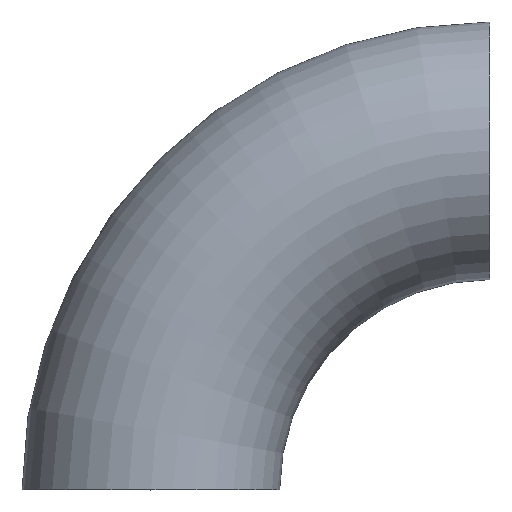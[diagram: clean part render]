
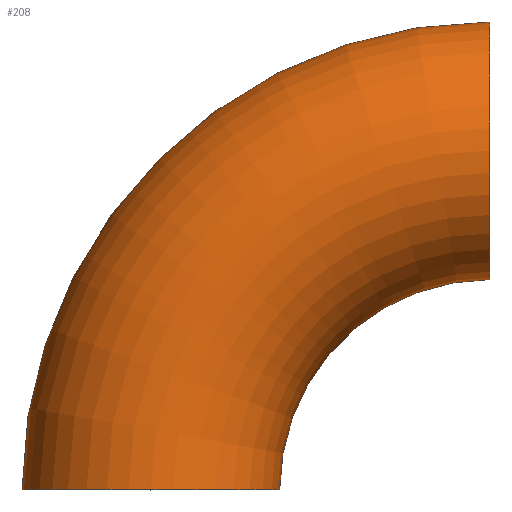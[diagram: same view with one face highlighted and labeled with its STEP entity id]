
A CAD part, top view. The second image highlights one B-rep face of the part: STEP entity #208.
In plain terms, the highlighted toroidal (fillet/blend) face has major radius 50 mm and minor radius 19 mm.
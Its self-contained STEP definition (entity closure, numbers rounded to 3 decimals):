
#4 = CIRCLE ( 'NONE', #25, 31. ) ;
#12 = EDGE_CURVE ( 'NONE', #194, #175, #43, .T. ) ;
#21 = DIRECTION ( 'NONE',  ( 1., 0., 0. ) ) ;
#25 = AXIS2_PLACEMENT_3D ( 'NONE', #26, #134, #52 ) ;
#26 = CARTESIAN_POINT ( 'NONE',  ( 50., 0., 0. ) ) ;
#29 = DIRECTION ( 'NONE',  ( 1., 0., 0. ) ) ;
#34 = DIRECTION ( 'NONE',  ( 1., 0., 0. ) ) ;
#41 = AXIS2_PLACEMENT_3D ( 'NONE', #230, #115, #34 ) ;
#43 = CIRCLE ( 'NONE', #70, 19. ) ;
#44 = CARTESIAN_POINT ( 'NONE',  ( 19., 0., 0. ) ) ;
#52 = DIRECTION ( 'NONE',  ( 1., 0., 0. ) ) ;
#55 = CARTESIAN_POINT ( 'NONE',  ( 0., 0., 0. ) ) ;
#67 = CARTESIAN_POINT ( 'NONE',  ( 50., 69., 0. ) ) ;
#69 = DIRECTION ( 'NONE',  ( 0., 0., 1. ) ) ;
#70 = AXIS2_PLACEMENT_3D ( 'NONE', #55, #222, #71 ) ;
#71 = DIRECTION ( 'NONE',  ( 0., 0., 1. ) ) ;
#72 = AXIS2_PLACEMENT_3D ( 'NONE', #170, #69, #21 ) ;
#83 = CIRCLE ( 'NONE', #144, 19. ) ;
#84 = ORIENTED_EDGE ( 'NONE', *, *, #244, .T. ) ;
#107 = TOROIDAL_SURFACE ( 'NONE', #72, 50., 19. ) ;
#110 = CARTESIAN_POINT ( 'NONE',  ( 50., 31., 0. ) ) ;
#115 = DIRECTION ( 'NONE',  ( 0., 0., 1. ) ) ;
#124 = ORIENTED_EDGE ( 'NONE', *, *, #12, .T. ) ;
#126 = ORIENTED_EDGE ( 'NONE', *, *, #241, .F. ) ;
#134 = DIRECTION ( 'NONE',  ( 0., 0., 1. ) ) ;
#136 = VERTEX_POINT ( 'NONE', #67 ) ;
#143 = CIRCLE ( 'NONE', #41, 69. ) ;
#144 = AXIS2_PLACEMENT_3D ( 'NONE', #162, #29, #152 ) ;
#150 = CARTESIAN_POINT ( 'NONE',  ( -19., 0., 0. ) ) ;
#152 = DIRECTION ( 'NONE',  ( 0., 0., 1. ) ) ;
#162 = CARTESIAN_POINT ( 'NONE',  ( 50., 50., 0. ) ) ;
#170 = CARTESIAN_POINT ( 'NONE',  ( 50., 0., 0. ) ) ;
#175 = VERTEX_POINT ( 'NONE', #44 ) ;
#182 = ORIENTED_EDGE ( 'NONE', *, *, #204, .F. ) ;
#194 = VERTEX_POINT ( 'NONE', #150 ) ;
#204 = EDGE_CURVE ( 'NONE', #136, #207, #83, .T. ) ;
#207 = VERTEX_POINT ( 'NONE', #110 ) ;
#208 = ADVANCED_FACE ( 'NONE', ( #246 ), #107, .T. ) ;
#222 = DIRECTION ( 'NONE',  ( 0., 1., 0. ) ) ;
#230 = CARTESIAN_POINT ( 'NONE',  ( 50., 0., 0. ) ) ;
#237 = EDGE_LOOP ( 'NONE', ( #182, #84, #124, #126 ) ) ;
#241 = EDGE_CURVE ( 'NONE', #207, #175, #4, .T. ) ;
#244 = EDGE_CURVE ( 'NONE', #136, #194, #143, .T. ) ;
#246 = FACE_OUTER_BOUND ( 'NONE', #237, .T. ) ;
